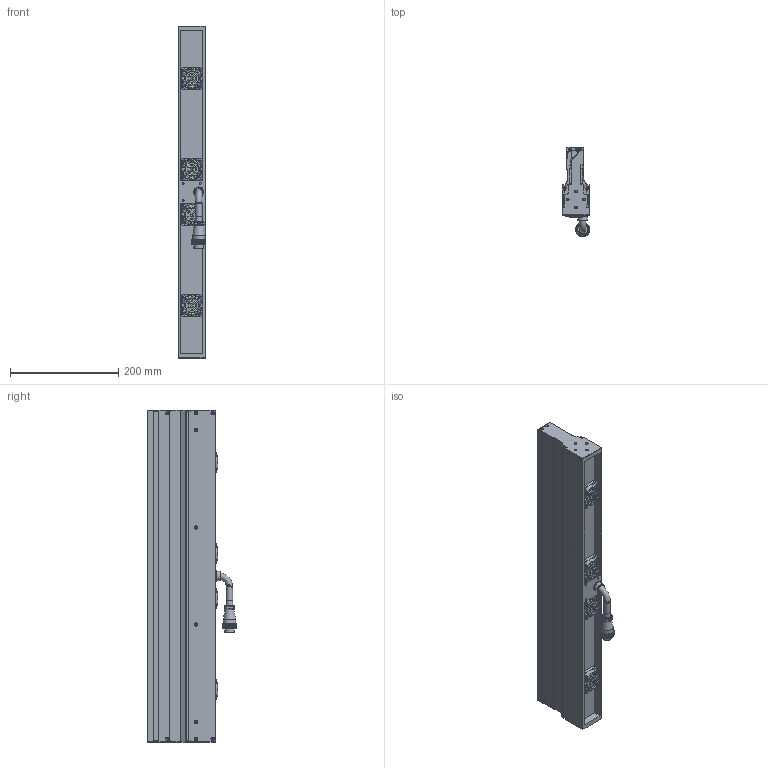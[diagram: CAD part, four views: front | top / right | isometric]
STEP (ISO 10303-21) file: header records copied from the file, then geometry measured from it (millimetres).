
FILE_DESCRIPTION (( 'STEP AP203' ), '1' );
FILE_NAME ('OPT-LSSC614-R-V3.1U尨砩芞.STEP', '2025-02-09T02:27:47', ( 'USER' ), ( '' ), 'SwSTEP 2.0', 'SolidWorks 2016', '' );
FILE_SCHEMA (( 'CONFIG_CONTROL_DESIGN' ));
Length unit declared in the file: millimetre
Products named in the file (2): OPT-LSSC614-R-V3.1U尨砩芞
Bounding box: 50.6 x 164.5 x 614 mm (x, y, z)
Volume: 2357795.2 mm3; surface area: 452476.4 mm2
Topology: 22 solids, 30 shells, 2779 faces, 7154 edges, 4538 vertices
Faces by surface type: bspline 1051, cylinder 818, plane 681, torus 160, cone 69
Full cylindrical faces by diameter (mm): 1 x2, 1.6 x16, 2 x4, 2.5 x28, 3 x4, 3.2 x20, 3.4 x26, 3.5 x4, 5 x8, 6.2 x16, 8 x1, 11.6 x1, 11.7 x3, 12 x1, 15 x1, 15.9 x1, 17.5 x1, 18 x1, 18.5 x1, 22.8 x1, 24 x1, 24.8 x4, 38 x4
Entity records: 104583 total; most frequent: CARTESIAN_POINT 49200, ORIENTED_EDGE 13514, DIRECTION 7308, EDGE_CURVE 6757, VERTEX_POINT 4446, B_SPLINE_CURVE_WITH_KNOTS 4079, EDGE_LOOP 3231, FACE_OUTER_BOUND 3005
